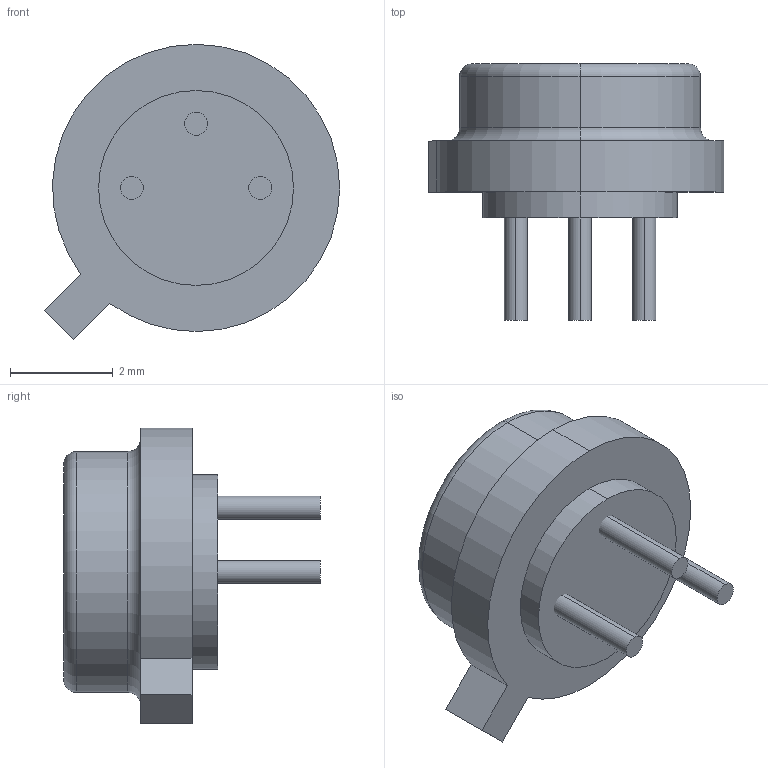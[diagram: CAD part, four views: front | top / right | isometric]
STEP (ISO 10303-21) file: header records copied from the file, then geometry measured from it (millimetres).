
FILE_DESCRIPTION (( 'STEP AP214' ), '1' );
FILE_NAME ( 'TO125P560H300-3.STEP', '2021-10-06T06:49:14', ( '' ), ( '' ), '', '©2017 PCB Libraries, Inc.', '' );
FILE_SCHEMA (( 'AUTOMOTIVE_DESIGN' ));
Length unit declared in the file: millimetre
Products named in the file (1): TO125P560H300-3
Bounding box: 5.76 x 5 x 5.76 mm (x, y, z)
Volume: 58.3 mm3; surface area: 106.9 mm2
Topology: 4 solids, 4 shells, 30 faces, 56 edges, 36 vertices
Faces by surface type: plane 13, cylinder 13, torus 4
Entity records: 908 total; most frequent: DIRECTION 152, CARTESIAN_POINT 123, ORIENTED_EDGE 112, AXIS2_PLACEMENT_3D 65, EDGE_CURVE 56, VERTEX_POINT 36, STYLED_ITEM 35, PRESENTATION_LAYER_ASSIGNMENT 35
